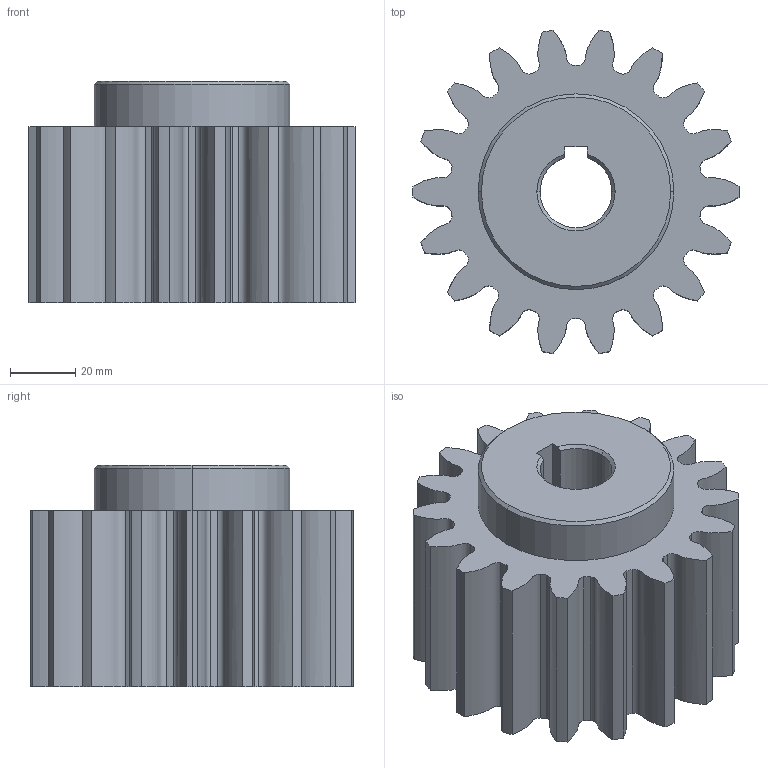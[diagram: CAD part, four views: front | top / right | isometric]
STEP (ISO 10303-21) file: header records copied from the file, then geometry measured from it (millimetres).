
FILE_DESCRIPTION (( 'STEP AP203' ), '1' );
FILE_NAME ('YWSD-2026-03-01-03=002 公转驱动齿轮18×5.STEP', '2026-07-24T07:32:06', ( 'Windows 用户' ), ( '' ), 'SwSTEP 2.0', 'SolidWorks 2024', '' );
FILE_SCHEMA (( 'CONFIG_CONTROL_DESIGN' ));
Length unit declared in the file: millimetre
Products named in the file (1): YWSD-2026-03-01-03=002 公转驱动齿轮18×5
Bounding box: 100 x 99.01 x 68 mm (x, y, z)
Volume: 303087.3 mm3; surface area: 51077.8 mm2
Topology: 1 solids, 1 shells, 94 faces, 264 edges, 174 vertices
Faces by surface type: cylinder 44, bspline 36, cone 7, plane 7
Entity records: 6954 total; most frequent: CARTESIAN_POINT 4607, ORIENTED_EDGE 528, DIRECTION 403, EDGE_CURVE 264, VERTEX_POINT 174, AXIS2_PLACEMENT_3D 154, EDGE_LOOP 98, CIRCLE 95
